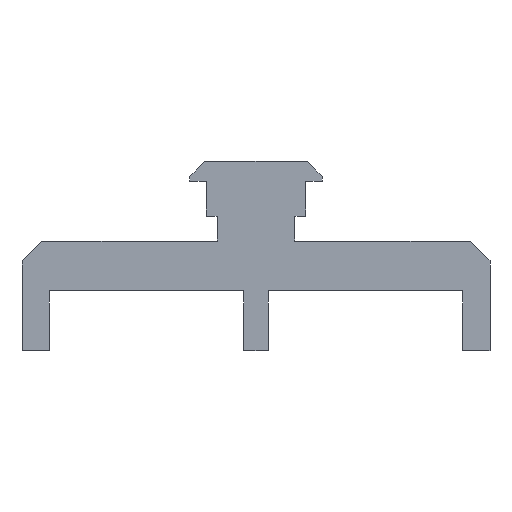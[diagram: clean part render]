
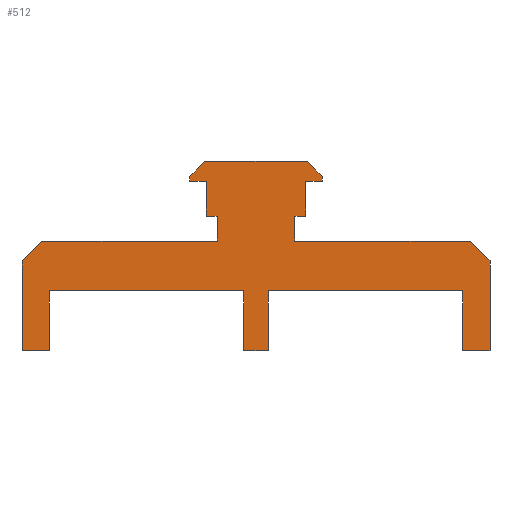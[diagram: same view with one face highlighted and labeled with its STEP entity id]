
A CAD part, front view. The second image highlights one B-rep face of the part: STEP entity #512.
In plain terms, the highlighted planar face has unit normal (0, -1, 0).
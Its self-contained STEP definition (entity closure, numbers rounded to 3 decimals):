
#1=DIRECTION('',(0.,0.,-1.));
#2=VECTOR('',#1,6.);
#3=CARTESIAN_POINT('',(1.25,0.,-7.5));
#4=LINE('',#3,#2);
#5=DIRECTION('',(-1.,0.,0.));
#6=VECTOR('',#5,2.5);
#7=CARTESIAN_POINT('',(1.25,0.,-13.5));
#8=LINE('',#7,#6);
#9=DIRECTION('',(0.,0.,1.));
#10=VECTOR('',#9,6.);
#11=CARTESIAN_POINT('',(-1.25,0.,-13.5));
#12=LINE('',#11,#10);
#13=DIRECTION('',(-1.,0.,0.));
#14=VECTOR('',#13,19.5);
#15=CARTESIAN_POINT('',(-1.25,0.,-7.5));
#16=LINE('',#15,#14);
#17=DIRECTION('',(0.,0.,-1.));
#18=VECTOR('',#17,6.);
#19=CARTESIAN_POINT('',(-20.75,0.,-7.5));
#20=LINE('',#19,#18);
#21=DIRECTION('',(-1.,0.,0.));
#22=VECTOR('',#21,2.75);
#23=CARTESIAN_POINT('',(-20.75,0.,-13.5));
#24=LINE('',#23,#22);
#25=DIRECTION('',(0.,0.,1.));
#26=VECTOR('',#25,9.);
#27=CARTESIAN_POINT('',(-23.5,0.,-13.5));
#28=LINE('',#27,#26);
#29=DIRECTION('',(0.707,0.,0.707));
#30=VECTOR('',#29,2.828);
#31=CARTESIAN_POINT('',(-23.5,0.,-4.5));
#32=LINE('',#31,#30);
#33=DIRECTION('',(1.,0.,0.));
#34=VECTOR('',#33,17.6);
#35=CARTESIAN_POINT('',(-21.5,0.,-2.5));
#36=LINE('',#35,#34);
#37=DIRECTION('',(0.,0.,1.));
#38=VECTOR('',#37,2.5);
#39=CARTESIAN_POINT('',(-3.9,0.,-2.5));
#40=LINE('',#39,#38);
#41=DIRECTION('',(-1.,0.,0.));
#42=VECTOR('',#41,1.1);
#43=CARTESIAN_POINT('',(-3.9,0.,0.));
#44=LINE('',#43,#42);
#45=DIRECTION('',(0.,0.,1.));
#46=VECTOR('',#45,3.5);
#47=CARTESIAN_POINT('',(-5.,0.,0.));
#48=LINE('',#47,#46);
#49=DIRECTION('',(-1.,0.,0.));
#50=VECTOR('',#49,1.65);
#51=CARTESIAN_POINT('',(-5.,0.,3.5));
#52=LINE('',#51,#50);
#53=DIRECTION('',(0.,0.,1.));
#54=VECTOR('',#53,0.5);
#55=CARTESIAN_POINT('',(-6.65,0.,3.5));
#56=LINE('',#55,#54);
#57=DIRECTION('',(0.707,0.,0.707));
#58=VECTOR('',#57,2.121);
#59=CARTESIAN_POINT('',(-6.65,0.,4.));
#60=LINE('',#59,#58);
#61=DIRECTION('',(1.,0.,0.));
#62=VECTOR('',#61,10.3);
#63=CARTESIAN_POINT('',(-5.15,0.,5.5));
#64=LINE('',#63,#62);
#65=DIRECTION('',(0.707,0.,-0.707));
#66=VECTOR('',#65,2.121);
#67=CARTESIAN_POINT('',(5.15,0.,5.5));
#68=LINE('',#67,#66);
#69=DIRECTION('',(0.,0.,-1.));
#70=VECTOR('',#69,0.5);
#71=CARTESIAN_POINT('',(6.65,0.,4.));
#72=LINE('',#71,#70);
#73=DIRECTION('',(-1.,0.,0.));
#74=VECTOR('',#73,1.65);
#75=CARTESIAN_POINT('',(6.65,0.,3.5));
#76=LINE('',#75,#74);
#77=DIRECTION('',(0.,0.,-1.));
#78=VECTOR('',#77,3.5);
#79=CARTESIAN_POINT('',(5.,0.,3.5));
#80=LINE('',#79,#78);
#81=DIRECTION('',(-1.,0.,0.));
#82=VECTOR('',#81,1.1);
#83=CARTESIAN_POINT('',(5.,0.,0.));
#84=LINE('',#83,#82);
#85=DIRECTION('',(0.,0.,-1.));
#86=VECTOR('',#85,2.5);
#87=CARTESIAN_POINT('',(3.9,0.,0.));
#88=LINE('',#87,#86);
#89=DIRECTION('',(1.,0.,0.));
#90=VECTOR('',#89,17.6);
#91=CARTESIAN_POINT('',(3.9,0.,-2.5));
#92=LINE('',#91,#90);
#93=DIRECTION('',(0.707,0.,-0.707));
#94=VECTOR('',#93,2.828);
#95=CARTESIAN_POINT('',(21.5,0.,-2.5));
#96=LINE('',#95,#94);
#97=DIRECTION('',(0.,0.,-1.));
#98=VECTOR('',#97,9.);
#99=CARTESIAN_POINT('',(23.5,0.,-4.5));
#100=LINE('',#99,#98);
#101=DIRECTION('',(-1.,0.,0.));
#102=VECTOR('',#101,2.75);
#103=CARTESIAN_POINT('',(23.5,0.,-13.5));
#104=LINE('',#103,#102);
#105=DIRECTION('',(0.,0.,1.));
#106=VECTOR('',#105,6.);
#107=CARTESIAN_POINT('',(20.75,0.,-13.5));
#108=LINE('',#107,#106);
#109=DIRECTION('',(-1.,0.,0.));
#110=VECTOR('',#109,19.5);
#111=CARTESIAN_POINT('',(20.75,0.,-7.5));
#112=LINE('',#111,#110);
#337=CARTESIAN_POINT('',(1.25,0.,-7.5));
#338=CARTESIAN_POINT('',(1.25,0.,-13.5));
#339=VERTEX_POINT('',#337);
#340=VERTEX_POINT('',#338);
#341=CARTESIAN_POINT('',(-1.25,0.,-13.5));
#342=VERTEX_POINT('',#341);
#343=CARTESIAN_POINT('',(-1.25,0.,-7.5));
#344=VERTEX_POINT('',#343);
#345=CARTESIAN_POINT('',(-20.75,0.,-7.5));
#346=VERTEX_POINT('',#345);
#347=CARTESIAN_POINT('',(-20.75,0.,-13.5));
#348=VERTEX_POINT('',#347);
#349=CARTESIAN_POINT('',(-23.5,0.,-13.5));
#350=VERTEX_POINT('',#349);
#351=CARTESIAN_POINT('',(-23.5,0.,-4.5));
#352=VERTEX_POINT('',#351);
#353=CARTESIAN_POINT('',(-21.5,0.,-2.5));
#354=VERTEX_POINT('',#353);
#355=CARTESIAN_POINT('',(-3.9,0.,-2.5));
#356=VERTEX_POINT('',#355);
#357=CARTESIAN_POINT('',(-3.9,0.,0.));
#358=VERTEX_POINT('',#357);
#359=CARTESIAN_POINT('',(-5.,0.,0.));
#360=VERTEX_POINT('',#359);
#361=CARTESIAN_POINT('',(-5.,0.,3.5));
#362=VERTEX_POINT('',#361);
#363=CARTESIAN_POINT('',(-6.65,0.,3.5));
#364=VERTEX_POINT('',#363);
#365=CARTESIAN_POINT('',(-6.65,0.,4.));
#366=VERTEX_POINT('',#365);
#367=CARTESIAN_POINT('',(-5.15,0.,5.5));
#368=VERTEX_POINT('',#367);
#369=CARTESIAN_POINT('',(5.15,0.,5.5));
#370=VERTEX_POINT('',#369);
#371=CARTESIAN_POINT('',(6.65,0.,4.));
#372=VERTEX_POINT('',#371);
#373=CARTESIAN_POINT('',(6.65,0.,3.5));
#374=VERTEX_POINT('',#373);
#375=CARTESIAN_POINT('',(5.,0.,3.5));
#376=VERTEX_POINT('',#375);
#377=CARTESIAN_POINT('',(5.,0.,0.));
#378=VERTEX_POINT('',#377);
#379=CARTESIAN_POINT('',(3.9,0.,0.));
#380=VERTEX_POINT('',#379);
#381=CARTESIAN_POINT('',(3.9,0.,-2.5));
#382=VERTEX_POINT('',#381);
#383=CARTESIAN_POINT('',(21.5,0.,-2.5));
#384=VERTEX_POINT('',#383);
#385=CARTESIAN_POINT('',(23.5,0.,-4.5));
#386=VERTEX_POINT('',#385);
#387=CARTESIAN_POINT('',(23.5,0.,-13.5));
#388=VERTEX_POINT('',#387);
#389=CARTESIAN_POINT('',(20.75,0.,-13.5));
#390=VERTEX_POINT('',#389);
#391=CARTESIAN_POINT('',(20.75,0.,-7.5));
#392=VERTEX_POINT('',#391);
#449=CARTESIAN_POINT('',(0.,0.,0.));
#450=DIRECTION('',(0.,1.,0.));
#451=DIRECTION('',(1.,0.,0.));
#452=AXIS2_PLACEMENT_3D('',#449,#450,#451);
#453=PLANE('',#452);
#455=ORIENTED_EDGE('',*,*,#454,.T.);
#457=ORIENTED_EDGE('',*,*,#456,.T.);
#459=ORIENTED_EDGE('',*,*,#458,.T.);
#461=ORIENTED_EDGE('',*,*,#460,.T.);
#463=ORIENTED_EDGE('',*,*,#462,.T.);
#465=ORIENTED_EDGE('',*,*,#464,.T.);
#467=ORIENTED_EDGE('',*,*,#466,.T.);
#469=ORIENTED_EDGE('',*,*,#468,.T.);
#471=ORIENTED_EDGE('',*,*,#470,.T.);
#473=ORIENTED_EDGE('',*,*,#472,.T.);
#475=ORIENTED_EDGE('',*,*,#474,.T.);
#477=ORIENTED_EDGE('',*,*,#476,.T.);
#479=ORIENTED_EDGE('',*,*,#478,.T.);
#481=ORIENTED_EDGE('',*,*,#480,.T.);
#483=ORIENTED_EDGE('',*,*,#482,.T.);
#485=ORIENTED_EDGE('',*,*,#484,.T.);
#487=ORIENTED_EDGE('',*,*,#486,.T.);
#489=ORIENTED_EDGE('',*,*,#488,.T.);
#491=ORIENTED_EDGE('',*,*,#490,.T.);
#493=ORIENTED_EDGE('',*,*,#492,.T.);
#495=ORIENTED_EDGE('',*,*,#494,.T.);
#497=ORIENTED_EDGE('',*,*,#496,.T.);
#499=ORIENTED_EDGE('',*,*,#498,.T.);
#501=ORIENTED_EDGE('',*,*,#500,.T.);
#503=ORIENTED_EDGE('',*,*,#502,.T.);
#505=ORIENTED_EDGE('',*,*,#504,.T.);
#507=ORIENTED_EDGE('',*,*,#506,.T.);
#509=ORIENTED_EDGE('',*,*,#508,.T.);
#510=EDGE_LOOP('',(#455,#457,#459,#461,#463,#465,#467,#469,#471,#473,#475,#477,
#479,#481,#483,#485,#487,#489,#491,#493,#495,#497,#499,#501,#503,#505,#507,
#509));
#511=FACE_OUTER_BOUND('',#510,.F.);
#512=ADVANCED_FACE('',(#511),#453,.F.);
#454=EDGE_CURVE('',#339,#340,#4,.T.);
#456=EDGE_CURVE('',#340,#342,#8,.T.);
#458=EDGE_CURVE('',#342,#344,#12,.T.);
#460=EDGE_CURVE('',#344,#346,#16,.T.);
#462=EDGE_CURVE('',#346,#348,#20,.T.);
#464=EDGE_CURVE('',#348,#350,#24,.T.);
#466=EDGE_CURVE('',#350,#352,#28,.T.);
#468=EDGE_CURVE('',#352,#354,#32,.T.);
#470=EDGE_CURVE('',#354,#356,#36,.T.);
#472=EDGE_CURVE('',#356,#358,#40,.T.);
#474=EDGE_CURVE('',#358,#360,#44,.T.);
#476=EDGE_CURVE('',#360,#362,#48,.T.);
#478=EDGE_CURVE('',#362,#364,#52,.T.);
#480=EDGE_CURVE('',#364,#366,#56,.T.);
#482=EDGE_CURVE('',#366,#368,#60,.T.);
#484=EDGE_CURVE('',#368,#370,#64,.T.);
#486=EDGE_CURVE('',#370,#372,#68,.T.);
#488=EDGE_CURVE('',#372,#374,#72,.T.);
#490=EDGE_CURVE('',#374,#376,#76,.T.);
#492=EDGE_CURVE('',#376,#378,#80,.T.);
#494=EDGE_CURVE('',#378,#380,#84,.T.);
#496=EDGE_CURVE('',#380,#382,#88,.T.);
#498=EDGE_CURVE('',#382,#384,#92,.T.);
#500=EDGE_CURVE('',#384,#386,#96,.T.);
#502=EDGE_CURVE('',#386,#388,#100,.T.);
#504=EDGE_CURVE('',#388,#390,#104,.T.);
#506=EDGE_CURVE('',#390,#392,#108,.T.);
#508=EDGE_CURVE('',#392,#339,#112,.T.);
